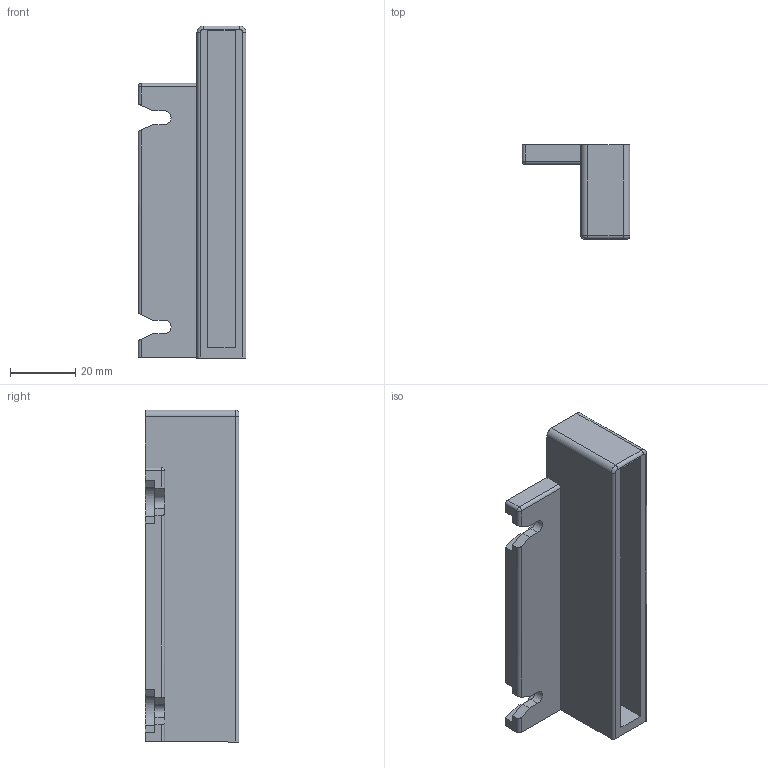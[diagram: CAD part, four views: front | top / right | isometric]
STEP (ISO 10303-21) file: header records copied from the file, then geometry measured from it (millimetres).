
FILE_DESCRIPTION (( 'STEP AP214' ), '1' );
FILE_NAME ('Abdeckkappe_Classic_hinten_rechts_HRW_Crystal .step', '2010-10-27T12:36:53', ( 'grass' ), ( '' ), 'SwSTEP 2.0', 'SolidWorks 2010', '' );
FILE_SCHEMA (( 'AUTOMOTIVE_DESIGN' ));
Length unit declared in the file: millimetre
Products named in the file (1): Abdeckkappe_Classic_hinten_rechts_HRW_Crystal 
Bounding box: 33 x 28.75 x 101.56 mm (x, y, z)
Volume: 43452.7 mm3; surface area: 14922.5 mm2
Topology: 1 solids, 1 shells, 47 faces, 126 edges, 81 vertices
Faces by surface type: plane 30, cylinder 14, torus 2, sphere 1
Entity records: 1483 total; most frequent: CARTESIAN_POINT 266, ORIENTED_EDGE 250, DIRECTION 243, EDGE_CURVE 125, LINE 95, VECTOR 95, VERTEX_POINT 81, AXIS2_PLACEMENT_3D 74
